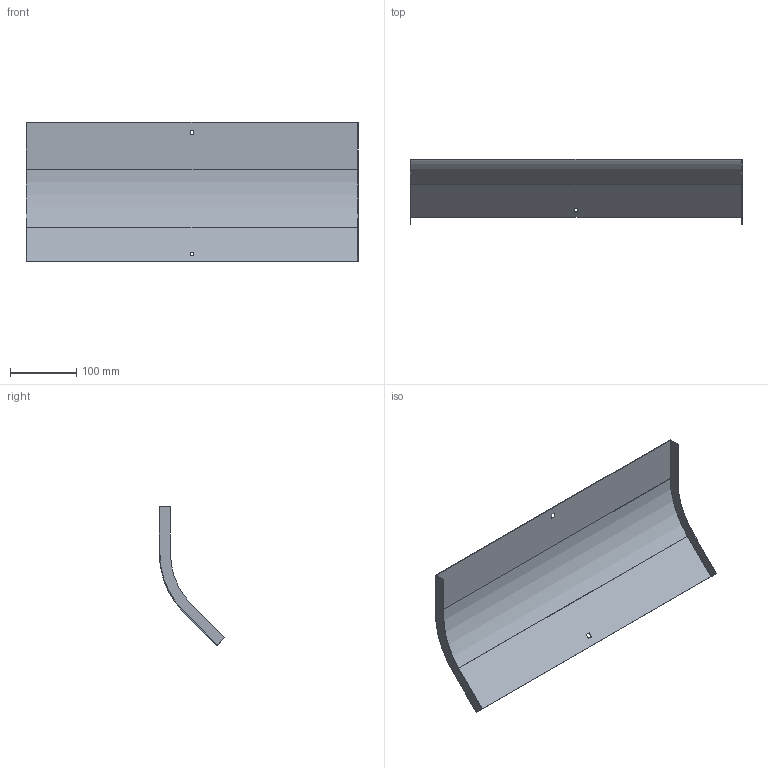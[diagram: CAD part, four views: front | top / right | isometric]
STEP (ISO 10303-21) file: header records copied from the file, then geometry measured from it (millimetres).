
FILE_DESCRIPTION (( 'STEP AP214' ), '1' );
FILE_NAME ('OD4_507.step', '2025-07-16T09:12:17', ( '' ), ( '' ), 'SwSTEP 2.0', 'SolidWorks 2023', '' );
FILE_SCHEMA (( 'AUTOMOTIVE_DESIGN' ));
Length unit declared in the file: millimetre
Products named in the file (1): OD4_507
Bounding box: 502 x 99.13 x 210.3 mm (x, y, z)
Volume: 128165.4 mm3; surface area: 257906.8 mm2
Topology: 1 solids, 1 shells, 26 faces, 72 edges, 48 vertices
Faces by surface type: plane 22, cylinder 4
Entity records: 855 total; most frequent: CARTESIAN_POINT 147, ORIENTED_EDGE 144, DIRECTION 134, EDGE_CURVE 72, VECTOR 64, LINE 64, VERTEX_POINT 48, AXIS2_PLACEMENT_3D 35
